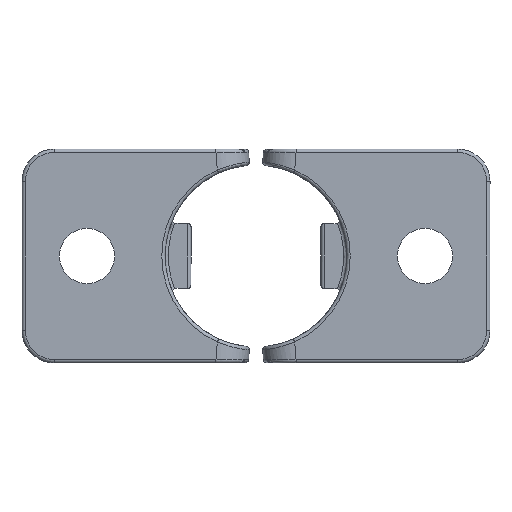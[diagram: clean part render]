
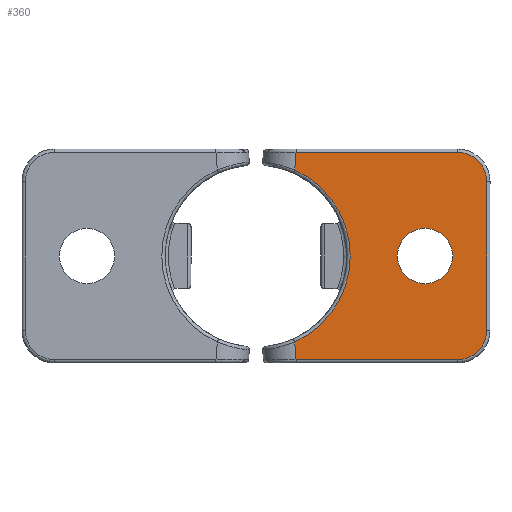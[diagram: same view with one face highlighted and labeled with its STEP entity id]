
A CAD part, front view. The second image highlights one B-rep face of the part: STEP entity #360.
In plain terms, the highlighted planar face has unit normal (0, -1, 0) as drawn and (0, 0, -1) by its records, which use the part's own axes.
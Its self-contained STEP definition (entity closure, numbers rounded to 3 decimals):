
#13 = EDGE_LOOP ( 'NONE', ( #596, #3344, #3139, #1023, #397, #1400, #300, #740 ) ) ;
#46 = DIRECTION ( 'NONE',  ( -0.997, 0.071, 0. ) ) ;
#111 = LINE ( 'NONE', #2869, #1329 ) ;
#118 = CARTESIAN_POINT ( 'NONE',  ( 15.958, 6.191, 0. ) ) ;
#187 = VERTEX_POINT ( 'NONE', #2773 ) ;
#216 = AXIS2_PLACEMENT_3D ( 'NONE', #1071, #3144, #2145 ) ;
#250 = CARTESIAN_POINT ( 'NONE',  ( 0., 26., 0. ) ) ;
#300 = ORIENTED_EDGE ( 'NONE', *, *, #2342, .T. ) ;
#339 = AXIS2_PLACEMENT_3D ( 'NONE', #1119, #2396, #840 ) ;
#340 = CARTESIAN_POINT ( 'NONE',  ( 15.958, 31., 0. ) ) ;
#354 = CARTESIAN_POINT ( 'NONE',  ( -11.458, 35.5, 0. ) ) ;
#360 = ADVANCED_FACE ( 'NONE', ( #2017, #1654 ), #811, .T. ) ;
#397 = ORIENTED_EDGE ( 'NONE', *, *, #2187, .T. ) ;
#404 = ORIENTED_EDGE ( 'NONE', *, *, #2077, .T. ) ;
#469 = CARTESIAN_POINT ( 'NONE',  ( 11.458, 35.5, 0. ) ) ;
#482 = VERTEX_POINT ( 'NONE', #1109 ) ;
#560 = CARTESIAN_POINT ( 'NONE',  ( 13.219, 5.959, 0. ) ) ;
#596 = ORIENTED_EDGE ( 'NONE', *, *, #1620, .T. ) ;
#597 = CARTESIAN_POINT ( 'NONE',  ( -16.101, 6.166, 0. ) ) ;
#717 = LINE ( 'NONE', #2070, #795 ) ;
#740 = ORIENTED_EDGE ( 'NONE', *, *, #1831, .T. ) ;
#758 = VECTOR ( 'NONE', #46, 1000. ) ;
#795 = VECTOR ( 'NONE', #2611, 1000. ) ;
#811 = PLANE ( 'NONE',  #216 ) ;
#839 = CARTESIAN_POINT ( 'NONE',  ( 0., 26., 0. ) ) ;
#840 = DIRECTION ( 'NONE',  ( -1., 0., 0. ) ) ;
#990 = VERTEX_POINT ( 'NONE', #354 ) ;
#1023 = ORIENTED_EDGE ( 'NONE', *, *, #1516, .T. ) ;
#1064 = DIRECTION ( 'NONE',  ( 1., 0., 0. ) ) ;
#1071 = CARTESIAN_POINT ( 'NONE',  ( 0., 0., 0. ) ) ;
#1081 = LINE ( 'NONE', #1974, #2577 ) ;
#1109 = CARTESIAN_POINT ( 'NONE',  ( -15.958, 31., 0. ) ) ;
#1110 = CARTESIAN_POINT ( 'NONE',  ( 4.25, 26., 0. ) ) ;
#1119 = CARTESIAN_POINT ( 'NONE',  ( 11.458, 31., 0. ) ) ;
#1142 = CARTESIAN_POINT ( 'NONE',  ( -11.458, 31., 0. ) ) ;
#1160 = VERTEX_POINT ( 'NONE', #469 ) ;
#1165 = DIRECTION ( 'NONE',  ( -0.997, -0.071, 0. ) ) ;
#1230 = DIRECTION ( 'NONE',  ( 0., -1., 0. ) ) ;
#1297 = EDGE_LOOP ( 'NONE', ( #404, #2958 ) ) ;
#1321 = CARTESIAN_POINT ( 'NONE',  ( 0., 0., 0. ) ) ;
#1329 = VECTOR ( 'NONE', #1064, 1000. ) ;
#1360 = AXIS2_PLACEMENT_3D ( 'NONE', #1321, #3303, #3042 ) ;
#1400 = ORIENTED_EDGE ( 'NONE', *, *, #3130, .T. ) ;
#1435 = VERTEX_POINT ( 'NONE', #340 ) ;
#1516 = EDGE_CURVE ( 'NONE', #990, #1160, #111, .T. ) ;
#1620 = EDGE_CURVE ( 'NONE', #187, #3353, #2581, .T. ) ;
#1631 = DIRECTION ( 'NONE',  ( 0., 0., 1. ) ) ;
#1650 = CIRCLE ( 'NONE', #2639, 4.5 ) ;
#1654 = FACE_BOUND ( 'NONE', #1297, .T. ) ;
#1732 = CIRCLE ( 'NONE', #339, 4.5 ) ;
#1761 = VERTEX_POINT ( 'NONE', #1838 ) ;
#1792 = VERTEX_POINT ( 'NONE', #2935 ) ;
#1831 = EDGE_CURVE ( 'NONE', #2576, #187, #2171, .T. ) ;
#1837 = AXIS2_PLACEMENT_3D ( 'NONE', #839, #1631, #2409 ) ;
#1838 = CARTESIAN_POINT ( 'NONE',  ( -4.25, 26., 0. ) ) ;
#1910 = DIRECTION ( 'NONE',  ( -1., 0., 0. ) ) ;
#1974 = CARTESIAN_POINT ( 'NONE',  ( 13.607, 5.987, 0. ) ) ;
#2017 = FACE_OUTER_BOUND ( 'NONE', #13, .T. ) ;
#2070 = CARTESIAN_POINT ( 'NONE',  ( -15.958, 31., 0. ) ) ;
#2077 = EDGE_CURVE ( 'NONE', #1761, #2952, #2136, .T. ) ;
#2099 = EDGE_CURVE ( 'NONE', #3353, #482, #717, .T. ) ;
#2136 = CIRCLE ( 'NONE', #2927, 4.25 ) ;
#2145 = DIRECTION ( 'NONE',  ( -1., 0., 0. ) ) ;
#2171 = CIRCLE ( 'NONE', #1360, 14.5 ) ;
#2172 = EDGE_CURVE ( 'NONE', #482, #990, #1650, .T. ) ;
#2187 = EDGE_CURVE ( 'NONE', #1160, #1435, #1732, .T. ) ;
#2342 = EDGE_CURVE ( 'NONE', #1792, #2576, #1081, .T. ) ;
#2396 = DIRECTION ( 'NONE',  ( 0., 0., -1. ) ) ;
#2409 = DIRECTION ( 'NONE',  ( 1., 0., 0. ) ) ;
#2444 = CIRCLE ( 'NONE', #1837, 4.25 ) ;
#2576 = VERTEX_POINT ( 'NONE', #560 ) ;
#2577 = VECTOR ( 'NONE', #1165, 1000. ) ;
#2581 = LINE ( 'NONE', #597, #758 ) ;
#2595 = VECTOR ( 'NONE', #1230, 1000. ) ;
#2611 = DIRECTION ( 'NONE',  ( 0., 1., 0. ) ) ;
#2639 = AXIS2_PLACEMENT_3D ( 'NONE', #1142, #2670, #1910 ) ;
#2670 = DIRECTION ( 'NONE',  ( 0., 0., -1. ) ) ;
#2773 = CARTESIAN_POINT ( 'NONE',  ( -13.219, 5.959, 0. ) ) ;
#2869 = CARTESIAN_POINT ( 'NONE',  ( 11.458, 35.5, 0. ) ) ;
#2896 = DIRECTION ( 'NONE',  ( 1., 0., 0. ) ) ;
#2927 = AXIS2_PLACEMENT_3D ( 'NONE', #250, #3408, #2896 ) ;
#2935 = CARTESIAN_POINT ( 'NONE',  ( 15.958, 6.156, 0. ) ) ;
#2952 = VERTEX_POINT ( 'NONE', #1110 ) ;
#2955 = CARTESIAN_POINT ( 'NONE',  ( -15.958, 6.156, 0. ) ) ;
#2958 = ORIENTED_EDGE ( 'NONE', *, *, #3265, .T. ) ;
#3042 = DIRECTION ( 'NONE',  ( -1., 0., 0. ) ) ;
#3130 = EDGE_CURVE ( 'NONE', #1435, #1792, #3295, .T. ) ;
#3139 = ORIENTED_EDGE ( 'NONE', *, *, #2172, .T. ) ;
#3144 = DIRECTION ( 'NONE',  ( 0., 0., -1. ) ) ;
#3265 = EDGE_CURVE ( 'NONE', #2952, #1761, #2444, .T. ) ;
#3295 = LINE ( 'NONE', #118, #2595 ) ;
#3303 = DIRECTION ( 'NONE',  ( 0., 0., 1. ) ) ;
#3344 = ORIENTED_EDGE ( 'NONE', *, *, #2099, .T. ) ;
#3353 = VERTEX_POINT ( 'NONE', #2955 ) ;
#3408 = DIRECTION ( 'NONE',  ( 0., 0., 1. ) ) ;
